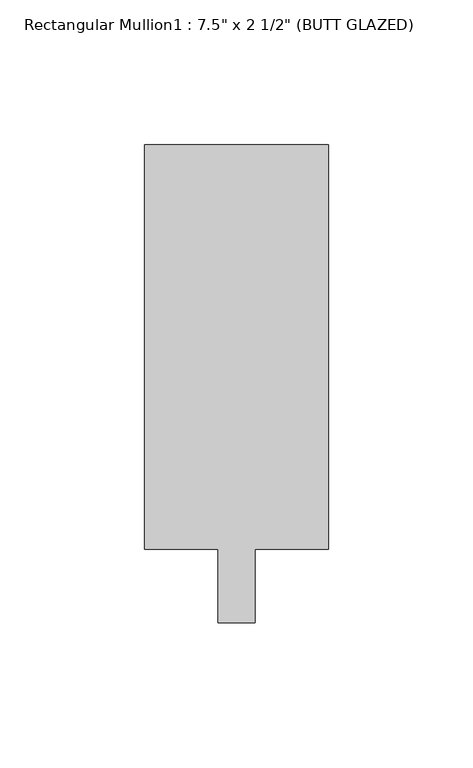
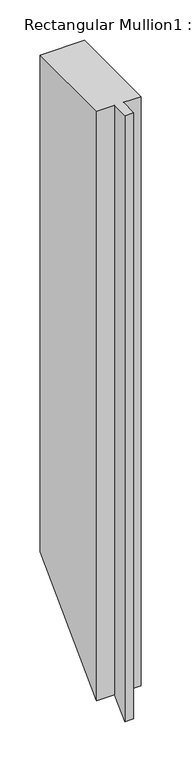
"""IFC4 building model written with IfcOpenShell, lengths in millimetres: member geometry."""

from ifc_helpers import new_model, si_unit, origin, place, context, project, spatial, faceted_brep, source, transform, mapped, element, save


def member_bcd88ed2(model_context):
    return source(origin(), model_context, "Body", "Brep", [
        faceted_brep([(31.75, 165.1, 0.0), (-31.75, 165.1, 0.0), (-31.75, 25.4, 0.0), (-6.35, 25.4, 0.0), (-6.35, 0.0, 0.0), (6.35, 0.0, 0.0), (6.35, 25.4, 0.0), (31.75, 25.4, 0.0), (31.75, 165.1, -749.3), (-31.75, 165.1, -749.3), (-31.75, 25.4, -889.0), (-6.35, 25.4, -889.0), (-6.35, 0.0, -914.4), (6.35, 0.0, -914.4), (6.35, 25.4, -889.0), (31.75, 25.4, -889.0)], [[[0, 1, 2, 3, 4, 5, 6, 7]], [[1, 0, 8, 9]], [[2, 1, 9, 10]], [[3, 2, 10, 11]], [[4, 3, 11, 12]], [[5, 4, 12, 13]], [[6, 5, 13, 14]], [[7, 6, 14, 15]], [[0, 7, 15, 8]], [[8, 15, 14, 13, 12, 11, 10, 9]]]),
    ])


if __name__ == "__main__":
    model = new_model("IFC4")
    model_context = context("Model", 3, world=origin())
    ifc_project = project(units=[si_unit("LENGTHUNIT", "METRE", prefix="MILLI")], contexts=[model_context])
    site = spatial("IfcSite", under=ifc_project)
    building = spatial("IfcBuilding", under=site)
    placement = place(None, origin())
    member_shape = member_bcd88ed2(model_context)
    element("IfcMember", 1, ObjectType="Rectangular Mullion1 : 7.5\" x 2 1/2\" (BUTT GLAZED)", at=placement, inside=building, context=model_context, shape_type="MappedRepresentation", body=[
        mapped(member_shape, transform((0.0, 0.0, 0.0), x_axis=(1.0, 0.0, 0.0), y_axis=(0.0, 1.0, 0.0), z_axis=(0.0, 0.0, 1.0))),
    ])
    save(model, "model.ifc")
